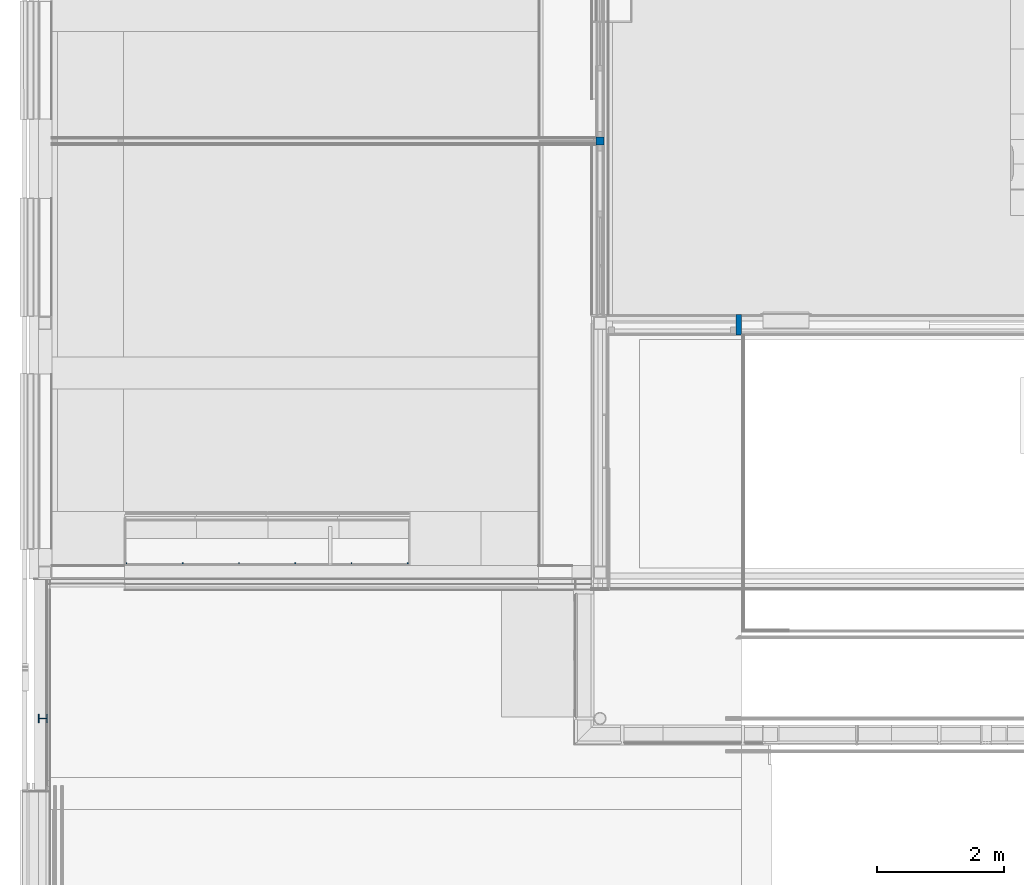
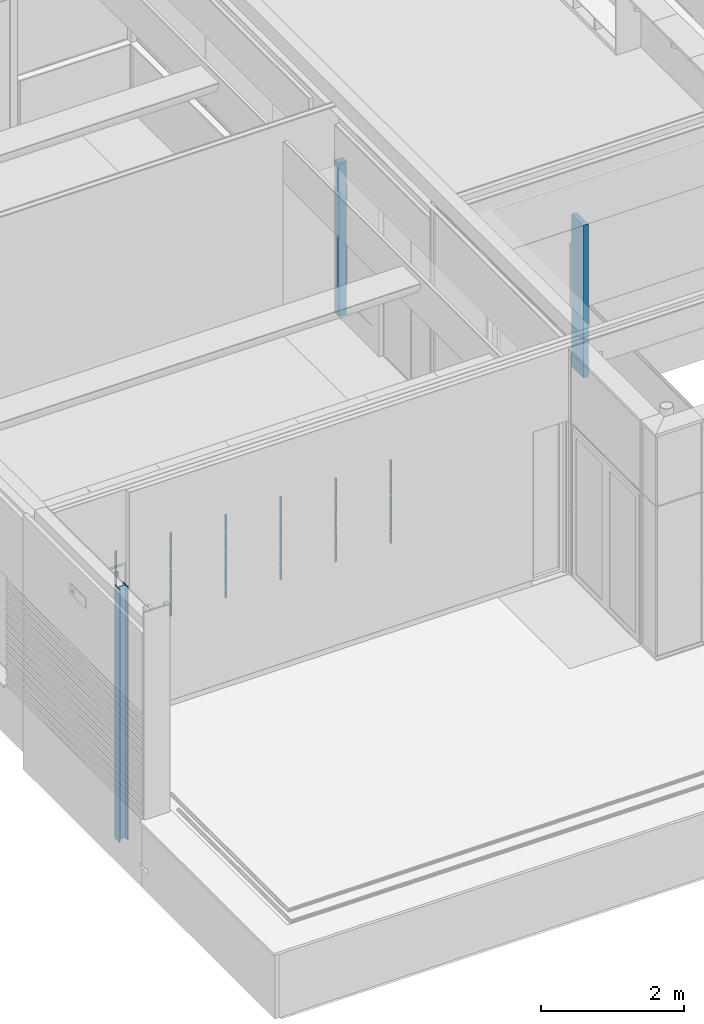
# One storey, part 6 of 137: 9 columns.
"""IFC2X3 building model written with IfcOpenShell, lengths in millimetres."""

from ifc_helpers import new_model, entity, si_unit, converted_unit, derived_unit, money_unit, direction, frame, origin_with_axes, place, context, subcontext, project, spatial, faceted_brep, material, type_object, element, save


model = new_model("IFC2X3")

# Units and contexts
model_context = context("Model", 3, precision=0.01, world=origin_with_axes(), true_north=direction((0.0, 1.0)))
body_context = subcontext(model_context, "Body", "Model", "MODEL_VIEW")
ifc_project = project(units=[si_unit("LENGTHUNIT", "METRE", prefix="MILLI"), si_unit("AREAUNIT", "SQUARE_METRE"), si_unit("VOLUMEUNIT", "CUBIC_METRE"), converted_unit("PLANEANGLEUNIT", "DEGREE", entity("IfcPlaneAngleMeasure", 0.0174532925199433), si_unit("PLANEANGLEUNIT", "RADIAN"), dimensions=[0, 0, 0, 0, 0, 0, 0]), money_unit("EUR"), converted_unit("TIMEUNIT", "Year", entity("IfcTimeMeasure", 31556926.0), si_unit("TIMEUNIT", "SECOND"), dimensions=[0, 0, 1, 0, 0, 0, 0]), si_unit("MASSUNIT", "GRAM", prefix="KILO"), si_unit("THERMODYNAMICTEMPERATUREUNIT", "DEGREE_CELSIUS"), si_unit("LUMINOUSINTENSITYUNIT", "LUMEN"), si_unit("ENERGYUNIT", "JOULE", prefix="MEGA"), derived_unit("THERMALCONDUCTANCEUNIT", [(si_unit("POWERUNIT", "WATT"), 1), (si_unit("LENGTHUNIT", "METRE"), -1), (si_unit("THERMODYNAMICTEMPERATUREUNIT", "KELVIN"), -1)]), derived_unit("SPECIFICHEATCAPACITYUNIT", [(si_unit("ENERGYUNIT", "JOULE"), 1), (si_unit("MASSUNIT", "GRAM", prefix="KILO"), -1), (si_unit("THERMODYNAMICTEMPERATUREUNIT", "KELVIN"), -1)]), derived_unit("MASSDENSITYUNIT", [(si_unit("MASSUNIT", "GRAM", prefix="KILO"), 1), (si_unit("VOLUMEUNIT", "CUBIC_METRE"), -1)])], contexts=[model_context])

# Site, building, storey
site_placement = place(None, origin_with_axes())
site = spatial("IfcSite", under=ifc_project, at=site_placement, Name="Site", CompositionType="ELEMENT")
building_placement = place(site_placement, origin_with_axes())
building = spatial("IfcBuilding", under=site, at=building_placement, Name="Naam gebouw", CompositionType="ELEMENT")
storey_placement = place(building_placement, frame((0.0, 0.0, 3960.0), z_axis=(0.0, 0.0, 1.0), x_axis=(1.0, 0.0, 0.0)))
storey = spatial("IfcBuildingStorey", under=building, at=storey_placement, Name="1e verdieping", CompositionType="ELEMENT", Elevation=3960.0)

# Columns
ifc_material_1 = material(Name="Hout C")
column_type_1 = type_object("IfcColumnType", Name="Hout C 125 x 125", PredefinedType="COLUMN")
column_1_placement = place(storey_placement, frame((8850.000000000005, 13677.4998112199, 0.0), z_axis=(0.0, 0.0, 1.0), x_axis=(1.0, 0.0, 0.0)))
element("IfcColumn", 1, at=column_1_placement, inside=storey, type_object=column_type_1, material=ifc_material_1, Name="28_Kolom-x", ObjectType="COLUMN", context=body_context, shape_type="Brep", body=[
    faceted_brep([(-62.5, -62.5, 2600.0), (-62.5, -62.5, 0.0), (62.5, -62.5, 0.0), (62.5, -62.5, 2600.0), (-62.5, 62.5, 2600.0), (-62.5, 62.5, 0.0), (62.5, 62.5, 0.0), (62.5, 62.5, 2600.0)], [[[0, 1, 2, 3]], [[4, 5, 1, 0]], [[2, 1, 5, 6]], [[3, 2, 6, 7]], [[4, 0, 3, 7]], [[7, 6, 5, 4]]]),
])
ifc_material_2 = material(Name="ALG - ALGEMEEN")
column_type_2 = type_object("IfcColumnType", Name="ALG - ALGEMEEN 20 x 20", PredefinedType="COLUMN")
column_2_placement = place(storey_placement, frame((4932.999999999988, 7023.999661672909, 1182.0), z_axis=(0.0, 0.0, 1.0), x_axis=(0.0, 1.0, 0.0)))
element("IfcColumn", 2, at=column_2_placement, inside=storey, type_object=column_type_2, material=ifc_material_2, Name="28_Kolom-x", ObjectType="COLUMN", context=body_context, shape_type="Brep", body=[
    faceted_brep([(9.999999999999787, 9.999999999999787, 0.0), (9.999999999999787, 9.999999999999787, 198.0000000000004), (9.999999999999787, -9.999999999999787, 198.0000000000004), (9.999999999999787, -9.999999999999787, 0.0), (-8.000000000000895, 9.999999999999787, 0.0), (-8.000000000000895, 9.999999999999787, 198.0000000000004), (-8.000000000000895, -9.999999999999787, 198.0000000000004), (-8.000000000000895, -9.999999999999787, 0.0)], [[[0, 1, 2, 3]], [[4, 5, 1, 0]], [[5, 6, 2, 1]], [[3, 2, 6, 7]], [[0, 3, 7, 4]], [[7, 6, 5, 4]]]),
    faceted_brep([(-8.000000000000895, -9.999999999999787, 1418.000000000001), (-8.000000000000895, -10.00000000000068, 1118.0), (9.999999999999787, -9.999999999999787, 1118.0), (9.999999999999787, -9.999999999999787, 1418.000000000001), (-8.000000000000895, 9.999999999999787, 1418.000000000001), (-8.000000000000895, 9.999999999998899, 1118.0), (9.999999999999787, 9.999999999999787, 1118.0), (9.999999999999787, 9.999999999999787, 1418.000000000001)], [[[0, 1, 2, 3]], [[4, 5, 1, 0]], [[5, 6, 2, 1]], [[3, 2, 6, 7]], [[3, 7, 4, 0]], [[7, 6, 5, 4]]]),
    faceted_brep([(-8.000000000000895, -9.999999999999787, 1098.000000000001), (-8.000000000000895, -9.999999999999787, 818.0000000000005), (9.999999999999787, -9.999999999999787, 818.0000000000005), (9.999999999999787, -9.999999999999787, 1098.000000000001), (-8.000000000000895, 9.999999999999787, 1098.000000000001), (-8.000000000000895, 9.999999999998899, 818.0000000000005), (9.999999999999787, 9.999999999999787, 818.0000000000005), (9.999999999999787, 9.999999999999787, 1098.000000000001)], [[[0, 1, 2, 3]], [[4, 5, 1, 0]], [[5, 6, 2, 1]], [[3, 2, 6, 7]], [[4, 0, 3, 7]], [[7, 6, 5, 4]]]),
    faceted_brep([(-8.000000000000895, -9.999999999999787, 798.0000000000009), (-8.000000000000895, -9.999999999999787, 518.0000000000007), (9.999999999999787, -9.999999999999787, 518.0000000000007), (9.999999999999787, -9.999999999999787, 798.0000000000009), (-8.000000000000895, 9.999999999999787, 798.0000000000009), (-8.000000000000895, 9.999999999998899, 518.0000000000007), (9.999999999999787, 9.999999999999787, 518.0000000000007), (9.999999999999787, 9.999999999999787, 798.0000000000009)], [[[0, 1, 2, 3]], [[4, 5, 1, 0]], [[5, 6, 2, 1]], [[3, 2, 6, 7]], [[4, 0, 3, 7]], [[7, 6, 5, 4]]]),
    faceted_brep([(-8.000000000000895, -9.999999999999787, 498.0000000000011), (-8.000000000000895, -9.999999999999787, 218.0), (9.999999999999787, -9.999999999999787, 218.0), (9.999999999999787, -9.999999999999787, 498.0000000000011), (-8.000000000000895, 9.999999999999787, 498.0000000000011), (-8.000000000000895, 9.999999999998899, 218.0), (9.999999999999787, 9.999999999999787, 218.0), (9.999999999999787, 9.999999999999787, 498.0000000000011)], [[[0, 1, 2, 3]], [[4, 5, 1, 0]], [[5, 6, 2, 1]], [[3, 2, 6, 7]], [[4, 0, 3, 7]], [[7, 6, 5, 4]]]),
])
column_3_placement = place(storey_placement, frame((1388.999999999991, 7023.999661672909, 1182.0), z_axis=(0.0, 0.0, 1.0), x_axis=(0.0, 1.0, 0.0)))
element("IfcColumn", 3, at=column_3_placement, inside=storey, type_object=column_type_2, material=ifc_material_2, Name="28_Kolom-x", ObjectType="COLUMN", context=body_context, shape_type="Brep", body=[
    faceted_brep([(9.999999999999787, 10.00000000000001, 0.0), (9.999999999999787, 10.00000000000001, 198.0000000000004), (9.999999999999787, -10.00000000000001, 198.0000000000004), (9.999999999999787, -10.00000000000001, 0.0), (-8.000000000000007, 10.00000000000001, 0.0), (-8.000000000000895, 10.00000000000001, 198.0000000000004), (-8.000000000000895, -9.999999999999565, 198.0000000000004), (-8.000000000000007, -10.00000000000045, 0.0)], [[[0, 1, 2, 3]], [[4, 5, 1, 0]], [[5, 6, 2, 1]], [[3, 2, 6, 7]], [[0, 3, 7, 4]], [[7, 6, 5, 4]]]),
    faceted_brep([(-8.000000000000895, -10.00000000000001, 1418.000000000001), (-8.000000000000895, -10.00000000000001, 1118.0), (9.999999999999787, -10.00000000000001, 1118.0), (9.999999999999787, -10.00000000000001, 1418.000000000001), (-8.000000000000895, 10.00000000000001, 1418.000000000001), (-8.000000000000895, 10.00000000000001, 1118.0), (9.999999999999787, 10.00000000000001, 1118.0), (9.999999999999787, 10.00000000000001, 1418.000000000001)], [[[0, 1, 2, 3]], [[4, 5, 1, 0]], [[5, 6, 2, 1]], [[3, 2, 6, 7]], [[3, 7, 4, 0]], [[7, 6, 5, 4]]]),
    faceted_brep([(-8.000000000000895, -9.999999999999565, 1098.000000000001), (-8.000000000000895, -10.00000000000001, 818.0000000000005), (9.999999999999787, -10.00000000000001, 818.0000000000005), (9.999999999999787, -10.00000000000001, 1098.000000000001), (-8.000000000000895, 10.00000000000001, 1098.000000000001), (-8.000000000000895, 10.00000000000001, 818.0000000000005), (9.999999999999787, 10.00000000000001, 818.0000000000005), (9.999999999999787, 10.00000000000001, 1098.000000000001)], [[[0, 1, 2, 3]], [[4, 5, 1, 0]], [[5, 6, 2, 1]], [[3, 2, 6, 7]], [[4, 0, 3, 7]], [[7, 6, 5, 4]]]),
    faceted_brep([(-8.000000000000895, -9.999999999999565, 798.0000000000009), (-8.000000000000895, -10.00000000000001, 518.0000000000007), (9.999999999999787, -10.00000000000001, 518.0000000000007), (9.999999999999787, -10.00000000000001, 798.0000000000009), (-8.000000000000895, 10.00000000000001, 798.0000000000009), (-8.000000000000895, 10.00000000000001, 518.0000000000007), (9.999999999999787, 10.00000000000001, 518.0000000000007), (9.999999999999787, 10.00000000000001, 798.0000000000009)], [[[0, 1, 2, 3]], [[4, 5, 1, 0]], [[5, 6, 2, 1]], [[3, 2, 6, 7]], [[4, 0, 3, 7]], [[7, 6, 5, 4]]]),
    faceted_brep([(-8.000000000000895, -9.999999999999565, 498.0000000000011), (-8.000000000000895, -10.00000000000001, 218.0), (9.999999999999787, -10.00000000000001, 218.0), (9.999999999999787, -10.00000000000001, 498.0000000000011), (-8.000000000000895, 10.00000000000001, 498.0000000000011), (-8.000000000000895, 10.00000000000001, 218.0), (9.999999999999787, 10.00000000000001, 218.0), (9.999999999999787, 10.00000000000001, 498.0000000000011)], [[[0, 1, 2, 3]], [[4, 5, 1, 0]], [[5, 6, 2, 1]], [[3, 2, 6, 7]], [[4, 0, 3, 7]], [[7, 6, 5, 4]]]),
])
column_4_placement = place(storey_placement, frame((4046.999999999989, 7023.999661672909, 1182.0), z_axis=(0.0, 0.0, 1.0), x_axis=(0.0, 1.0, 0.0)))
element("IfcColumn", 4, at=column_4_placement, inside=storey, type_object=column_type_2, material=ifc_material_2, Name="28_Kolom-x", ObjectType="COLUMN", context=body_context, shape_type="Brep", body=[
    faceted_brep([(9.999999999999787, 9.999999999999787, 0.0), (9.999999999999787, 9.999999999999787, 198.0000000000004), (9.999999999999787, -9.999999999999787, 198.0000000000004), (9.999999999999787, -9.999999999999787, 0.0), (-8.000000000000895, 9.999999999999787, 0.0), (-8.000000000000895, 9.999999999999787, 198.0000000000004), (-8.000000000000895, -9.999999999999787, 198.0000000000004), (-8.000000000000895, -9.999999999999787, 0.0)], [[[0, 1, 2, 3]], [[4, 5, 1, 0]], [[5, 6, 2, 1]], [[3, 2, 6, 7]], [[0, 3, 7, 4]], [[7, 6, 5, 4]]]),
    faceted_brep([(-8.000000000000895, -9.999999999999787, 1418.000000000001), (-8.000000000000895, -9.999999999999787, 1118.0), (9.999999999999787, -9.999999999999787, 1118.0), (9.999999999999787, -9.999999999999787, 1418.000000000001), (-8.000000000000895, 9.999999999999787, 1418.000000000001), (-8.000000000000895, 9.999999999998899, 1118.0), (9.999999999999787, 9.999999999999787, 1118.0), (9.999999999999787, 9.999999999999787, 1418.000000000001)], [[[0, 1, 2, 3]], [[4, 5, 1, 0]], [[5, 6, 2, 1]], [[3, 2, 6, 7]], [[3, 7, 4, 0]], [[7, 6, 5, 4]]]),
    faceted_brep([(-8.000000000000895, -9.999999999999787, 1098.000000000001), (-8.000000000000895, -9.999999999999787, 818.0000000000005), (9.999999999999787, -9.999999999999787, 818.0000000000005), (9.999999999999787, -9.999999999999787, 1098.000000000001), (-8.000000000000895, 9.999999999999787, 1098.000000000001), (-8.000000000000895, 9.999999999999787, 818.0000000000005), (9.999999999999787, 9.999999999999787, 818.0000000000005), (9.999999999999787, 9.999999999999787, 1098.000000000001)], [[[0, 1, 2, 3]], [[4, 5, 1, 0]], [[5, 6, 2, 1]], [[3, 2, 6, 7]], [[4, 0, 3, 7]], [[7, 6, 5, 4]]]),
    faceted_brep([(-8.000000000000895, -9.999999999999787, 798.0000000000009), (-8.000000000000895, -9.999999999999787, 518.0000000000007), (9.999999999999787, -9.999999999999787, 518.0000000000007), (9.999999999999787, -9.999999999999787, 798.0000000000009), (-8.000000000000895, 9.999999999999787, 798.0000000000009), (-8.000000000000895, 9.999999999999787, 518.0000000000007), (9.999999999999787, 9.999999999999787, 518.0000000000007), (9.999999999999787, 9.999999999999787, 798.0000000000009)], [[[0, 1, 2, 3]], [[4, 5, 1, 0]], [[5, 6, 2, 1]], [[3, 2, 6, 7]], [[4, 0, 3, 7]], [[7, 6, 5, 4]]]),
    faceted_brep([(-8.000000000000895, -9.999999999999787, 498.0000000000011), (-8.000000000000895, -9.999999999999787, 218.0), (9.999999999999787, -9.999999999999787, 218.0), (9.999999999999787, -9.999999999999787, 498.0000000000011), (-8.000000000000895, 9.999999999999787, 498.0000000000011), (-8.000000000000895, 9.999999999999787, 218.0), (9.999999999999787, 9.999999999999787, 218.0), (9.999999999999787, 9.999999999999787, 498.0000000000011)], [[[0, 1, 2, 3]], [[4, 5, 1, 0]], [[5, 6, 2, 1]], [[3, 2, 6, 7]], [[4, 0, 3, 7]], [[7, 6, 5, 4]]]),
])
column_5_placement = place(storey_placement, frame((3160.999999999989, 7023.999661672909, 1182.0), z_axis=(0.0, 0.0, 1.0), x_axis=(0.0, 1.0, 0.0)))
element("IfcColumn", 5, at=column_5_placement, inside=storey, type_object=column_type_2, material=ifc_material_2, Name="28_Kolom-x", ObjectType="COLUMN", context=body_context, shape_type="Brep", body=[
    faceted_brep([(9.999999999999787, 10.00000000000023, 0.0), (9.999999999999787, 10.00000000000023, 198.0000000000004), (9.999999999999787, -9.999999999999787, 198.0000000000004), (9.999999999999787, -9.999999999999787, 0.0), (-8.000000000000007, 10.00000000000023, 0.0), (-8.000000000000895, 10.00000000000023, 198.0000000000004), (-8.000000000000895, -10.00000000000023, 198.0000000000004), (-8.000000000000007, -10.00000000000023, 0.0)], [[[0, 1, 2, 3]], [[4, 5, 1, 0]], [[5, 6, 2, 1]], [[3, 2, 6, 7]], [[0, 3, 7, 4]], [[7, 6, 5, 4]]]),
    faceted_brep([(-8.000000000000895, -9.999999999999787, 1418.000000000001), (-8.000000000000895, -9.999999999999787, 1118.0), (9.999999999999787, -9.999999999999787, 1118.0), (9.999999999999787, -9.999999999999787, 1418.000000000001), (-8.000000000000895, 10.00000000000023, 1418.000000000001), (-8.000000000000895, 10.00000000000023, 1118.0), (9.999999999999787, 10.00000000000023, 1118.0), (9.999999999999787, 10.00000000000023, 1418.000000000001)], [[[0, 1, 2, 3]], [[4, 5, 1, 0]], [[5, 6, 2, 1]], [[3, 2, 6, 7]], [[3, 7, 4, 0]], [[7, 6, 5, 4]]]),
    faceted_brep([(-8.000000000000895, -9.999999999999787, 1098.000000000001), (-8.000000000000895, -9.999999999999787, 818.0000000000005), (9.999999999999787, -9.999999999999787, 818.0000000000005), (9.999999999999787, -9.999999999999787, 1098.000000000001), (-8.000000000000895, 10.00000000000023, 1098.000000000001), (-8.000000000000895, 10.00000000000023, 818.0000000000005), (9.999999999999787, 10.00000000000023, 818.0000000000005), (9.999999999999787, 10.00000000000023, 1098.000000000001)], [[[0, 1, 2, 3]], [[4, 5, 1, 0]], [[5, 6, 2, 1]], [[3, 2, 6, 7]], [[4, 0, 3, 7]], [[7, 6, 5, 4]]]),
    faceted_brep([(-8.000000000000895, -9.999999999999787, 798.0000000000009), (-8.000000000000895, -9.999999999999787, 518.0000000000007), (9.999999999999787, -9.999999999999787, 518.0000000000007), (9.999999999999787, -9.999999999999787, 798.0000000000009), (-8.000000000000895, 10.00000000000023, 798.0000000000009), (-8.000000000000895, 10.00000000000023, 518.0000000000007), (9.999999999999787, 10.00000000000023, 518.0000000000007), (9.999999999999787, 10.00000000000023, 798.0000000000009)], [[[0, 1, 2, 3]], [[4, 5, 1, 0]], [[5, 6, 2, 1]], [[3, 2, 6, 7]], [[4, 0, 3, 7]], [[7, 6, 5, 4]]]),
    faceted_brep([(-8.000000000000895, -9.999999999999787, 498.0000000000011), (-8.000000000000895, -9.999999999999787, 218.0), (9.999999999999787, -9.999999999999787, 218.0), (9.999999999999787, -9.999999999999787, 498.0000000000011), (-8.000000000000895, 10.00000000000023, 498.0000000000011), (-8.000000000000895, 10.00000000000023, 218.0), (9.999999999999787, 10.00000000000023, 218.0), (9.999999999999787, 10.00000000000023, 498.0000000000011)], [[[0, 1, 2, 3]], [[4, 5, 1, 0]], [[5, 6, 2, 1]], [[3, 2, 6, 7]], [[4, 0, 3, 7]], [[7, 6, 5, 4]]]),
])
column_6_placement = place(storey_placement, frame((2274.99999999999, 7023.999661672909, 1182.0), z_axis=(0.0, 0.0, 1.0), x_axis=(0.0, 1.0, 0.0)))
element("IfcColumn", 6, at=column_6_placement, inside=storey, type_object=column_type_2, material=ifc_material_2, Name="28_Kolom-x", ObjectType="COLUMN", context=body_context, shape_type="Brep", body=[
    faceted_brep([(9.999999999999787, 10.00000000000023, 0.0), (9.999999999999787, 10.00000000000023, 198.0000000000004), (9.999999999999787, -9.999999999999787, 198.0000000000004), (9.999999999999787, -9.999999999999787, 0.0), (-8.000000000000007, 10.00000000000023, 0.0), (-8.000000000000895, 10.00000000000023, 198.0000000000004), (-8.000000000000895, -9.999999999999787, 198.0000000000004), (-8.000000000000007, -9.999999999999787, 0.0)], [[[0, 1, 2, 3]], [[4, 5, 1, 0]], [[5, 6, 2, 1]], [[3, 2, 6, 7]], [[0, 3, 7, 4]], [[7, 6, 5, 4]]]),
    faceted_brep([(-8.000000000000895, -9.999999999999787, 1418.000000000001), (-8.000000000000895, -9.999999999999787, 1118.0), (9.999999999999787, -9.999999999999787, 1118.0), (9.999999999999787, -9.999999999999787, 1418.000000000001), (-8.000000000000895, 10.00000000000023, 1418.000000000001), (-8.000000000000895, 10.00000000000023, 1118.0), (9.999999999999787, 10.00000000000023, 1118.0), (9.999999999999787, 10.00000000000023, 1418.000000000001)], [[[0, 1, 2, 3]], [[4, 5, 1, 0]], [[5, 6, 2, 1]], [[3, 2, 6, 7]], [[3, 7, 4, 0]], [[7, 6, 5, 4]]]),
    faceted_brep([(-8.000000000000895, -9.999999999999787, 1098.000000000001), (-8.000000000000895, -9.999999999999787, 818.0000000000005), (9.999999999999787, -9.999999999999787, 818.0000000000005), (9.999999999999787, -9.999999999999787, 1098.000000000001), (-8.000000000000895, 10.00000000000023, 1098.000000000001), (-8.000000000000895, 10.00000000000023, 818.0000000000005), (9.999999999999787, 10.00000000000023, 818.0000000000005), (9.999999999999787, 10.00000000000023, 1098.000000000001)], [[[0, 1, 2, 3]], [[4, 5, 1, 0]], [[5, 6, 2, 1]], [[3, 2, 6, 7]], [[4, 0, 3, 7]], [[7, 6, 5, 4]]]),
    faceted_brep([(-8.000000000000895, -9.999999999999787, 798.0000000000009), (-8.000000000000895, -9.999999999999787, 518.0000000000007), (9.999999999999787, -9.999999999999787, 518.0000000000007), (9.999999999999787, -9.999999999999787, 798.0000000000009), (-8.000000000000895, 10.00000000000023, 798.0000000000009), (-8.000000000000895, 10.00000000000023, 518.0000000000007), (9.999999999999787, 10.00000000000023, 518.0000000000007), (9.999999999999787, 10.00000000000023, 798.0000000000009)], [[[0, 1, 2, 3]], [[4, 5, 1, 0]], [[5, 6, 2, 1]], [[3, 2, 6, 7]], [[4, 0, 3, 7]], [[7, 6, 5, 4]]]),
    faceted_brep([(-8.000000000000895, -9.999999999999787, 498.0000000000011), (-8.000000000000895, -9.999999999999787, 218.0), (9.999999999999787, -9.999999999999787, 218.0), (9.999999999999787, -9.999999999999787, 498.0000000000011), (-8.000000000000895, 10.00000000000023, 498.0000000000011), (-8.000000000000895, 10.00000000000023, 218.0), (9.999999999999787, 10.00000000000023, 218.0), (9.999999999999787, 10.00000000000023, 498.0000000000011)], [[[0, 1, 2, 3]], [[4, 5, 1, 0]], [[5, 6, 2, 1]], [[3, 2, 6, 7]], [[4, 0, 3, 7]], [[7, 6, 5, 4]]]),
])
column_7_placement = place(storey_placement, frame((5818.999999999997, 7023.999661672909, 1182.0), z_axis=(0.0, 0.0, 1.0), x_axis=(0.0, 1.0, 0.0)))
element("IfcColumn", 7, at=column_7_placement, inside=storey, type_object=column_type_2, material=ifc_material_2, Name="28_Kolom-x", ObjectType="COLUMN", context=body_context, shape_type="Brep", body=[
    faceted_brep([(9.999999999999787, 9.999999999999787, 0.0), (9.999999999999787, 9.999999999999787, 198.0000000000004), (9.999999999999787, -9.999999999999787, 198.0000000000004), (9.999999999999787, -9.999999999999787, 0.0), (-8.000000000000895, 9.999999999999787, 0.0), (-8.000000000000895, 9.999999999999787, 198.0000000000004), (-8.000000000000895, -9.999999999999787, 198.0000000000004), (-8.000000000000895, -9.999999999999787, 0.0)], [[[0, 1, 2, 3]], [[4, 5, 1, 0]], [[5, 6, 2, 1]], [[3, 2, 6, 7]], [[0, 3, 7, 4]], [[7, 6, 5, 4]]]),
    faceted_brep([(-8.000000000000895, -9.999999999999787, 1418.000000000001), (-8.000000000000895, -9.999999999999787, 1118.0), (9.999999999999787, -9.999999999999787, 1118.0), (9.999999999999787, -9.999999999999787, 1418.000000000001), (-8.000000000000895, 9.999999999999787, 1418.000000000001), (-8.000000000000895, 9.999999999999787, 1118.0), (9.999999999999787, 9.999999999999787, 1118.0), (9.999999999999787, 9.999999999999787, 1418.000000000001)], [[[0, 1, 2, 3]], [[4, 5, 1, 0]], [[5, 6, 2, 1]], [[3, 2, 6, 7]], [[3, 7, 4, 0]], [[7, 6, 5, 4]]]),
    faceted_brep([(-8.000000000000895, -9.999999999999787, 1098.000000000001), (-8.000000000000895, -9.999999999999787, 818.0000000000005), (9.999999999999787, -9.999999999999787, 818.0000000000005), (9.999999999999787, -9.999999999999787, 1098.000000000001), (-8.000000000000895, 9.999999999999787, 1098.000000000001), (-8.000000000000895, 9.999999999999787, 818.0000000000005), (9.999999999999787, 9.999999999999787, 818.0000000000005), (9.999999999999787, 9.999999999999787, 1098.000000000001)], [[[0, 1, 2, 3]], [[4, 5, 1, 0]], [[5, 6, 2, 1]], [[3, 2, 6, 7]], [[4, 0, 3, 7]], [[7, 6, 5, 4]]]),
    faceted_brep([(-8.000000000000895, -9.999999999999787, 798.0000000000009), (-8.000000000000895, -9.999999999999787, 518.0000000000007), (9.999999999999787, -9.999999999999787, 518.0000000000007), (9.999999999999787, -9.999999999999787, 798.0000000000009), (-8.000000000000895, 9.999999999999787, 798.0000000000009), (-8.000000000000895, 9.999999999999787, 518.0000000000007), (9.999999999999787, 9.999999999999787, 518.0000000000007), (9.999999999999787, 9.999999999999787, 798.0000000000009)], [[[0, 1, 2, 3]], [[4, 5, 1, 0]], [[5, 6, 2, 1]], [[3, 2, 6, 7]], [[4, 0, 3, 7]], [[7, 6, 5, 4]]]),
    faceted_brep([(-8.000000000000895, -9.999999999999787, 498.0000000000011), (-8.000000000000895, -9.999999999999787, 218.0), (9.999999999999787, -9.999999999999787, 218.0), (9.999999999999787, -9.999999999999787, 498.0000000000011), (-8.000000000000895, 9.999999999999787, 498.0000000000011), (-8.000000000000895, 9.999999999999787, 218.0), (9.999999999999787, 9.999999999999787, 218.0), (9.999999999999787, 9.999999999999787, 498.0000000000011)], [[[0, 1, 2, 3]], [[4, 5, 1, 0]], [[5, 6, 2, 1]], [[3, 2, 6, 7]], [[4, 0, 3, 7]], [[7, 6, 5, 4]]]),
])
ifc_material_3 = material(Name="Metaal - Staal C")
column_type_3 = type_object("IfcColumnType", Name="HEB140 140 x 140", PredefinedType="COLUMN")
column_8_placement = place(storey_placement, frame((70.00000000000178, 4579.999999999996, -359.9999999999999), z_axis=(0.0, 0.0, 1.0), x_axis=(0.0, -1.0, 0.0)))
element("IfcColumn", 8, at=column_8_placement, inside=storey, type_object=column_type_3, material=ifc_material_3, Name="28_Kolom-x", ObjectType="COLUMN", context=body_context, shape_type="Brep", body=[
    faceted_brep([(-70.00000000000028, 69.99999999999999, 4310.000000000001), (-70.00000000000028, 69.99999999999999, 0.0), (-70.00000000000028, 58.00000000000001, 0.0), (-70.00000000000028, 58.00000000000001, 4310.000000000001), (70.00000000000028, 70.00000000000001, 4310.000000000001), (70.00000000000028, 70.00000000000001, 0.0), (70.00000000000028, 58.00000000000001, 0.0), (3.499999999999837, 57.99999999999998, 0.0), (3.499999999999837, -57.99999999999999, 0.0), (70.00000000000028, -57.99999999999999, 0.0), (70.00000000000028, -70.0, 0.0), (-70.00000000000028, -70.0, 0.0), (-70.00000000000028, -57.99999999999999, 0.0), (-3.499999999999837, -57.99999999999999, 0.0), (-3.499999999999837, 57.99999999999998, 0.0), (-3.499999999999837, 57.99999999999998, 4310.000000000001), (-3.499999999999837, -57.99999999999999, 4310.000000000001), (-70.00000000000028, -57.99999999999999, 4310.000000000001), (-70.00000000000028, -70.0, 4310.000000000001), (70.00000000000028, -70.0, 4310.000000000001), (70.00000000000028, -57.99999999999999, 4310.000000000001), (3.499999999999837, -57.99999999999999, 4310.000000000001), (3.499999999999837, 57.99999999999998, 4310.000000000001), (70.00000000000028, 58.00000000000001, 4310.000000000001)], [[[0, 1, 2, 3]], [[4, 5, 1, 0]], [[2, 1, 5, 6, 7, 8, 9, 10, 11, 12, 13, 14]], [[3, 2, 14, 15]], [[4, 0, 3, 15, 16, 17, 18, 19, 20, 21, 22, 23]], [[23, 6, 5, 4]], [[22, 7, 6, 23]], [[21, 8, 7, 22]], [[20, 9, 8, 21]], [[19, 10, 9, 20]], [[18, 11, 10, 19]], [[17, 12, 11, 18]], [[16, 13, 12, 17]], [[15, 14, 13, 16]]]),
])
column_type_4 = type_object("IfcColumnType", Name="Hout C 80 x 325", PredefinedType="COLUMN")
column_9_placement = place(storey_placement, frame((11035.0455925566, 10782.50011055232, 0.0), z_axis=(0.0, 0.0, 1.0), x_axis=(1.0, 0.0, 0.0)))
element("IfcColumn", 9, at=column_9_placement, inside=storey, type_object=column_type_4, material=ifc_material_1, Name="28_Kolom-x", ObjectType="COLUMN", context=body_context, shape_type="Brep", body=[
    faceted_brep([(-39.99999999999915, -162.4999999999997, 2600.0), (-39.99999999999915, -162.4999999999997, 0.0), (39.99999999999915, -162.4999999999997, 0.0), (39.99999999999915, -162.4999999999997, 2600.0), (-39.99999999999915, 162.4999999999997, 2600.0), (-39.99999999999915, 162.4999999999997, 0.0), (39.99999999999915, 162.4999999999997, 0.0), (39.99999999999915, 162.4999999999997, 2600.0)], [[[0, 1, 2, 3]], [[4, 5, 1, 0]], [[2, 1, 5, 6]], [[3, 2, 6, 7]], [[4, 0, 3, 7]], [[7, 6, 5, 4]]]),
])

save(model, "model.ifc")
